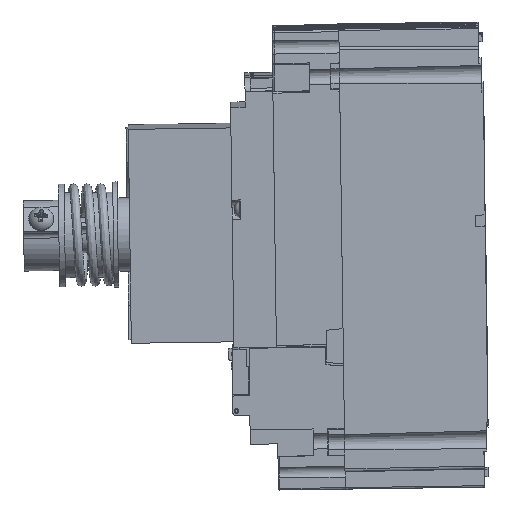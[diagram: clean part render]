
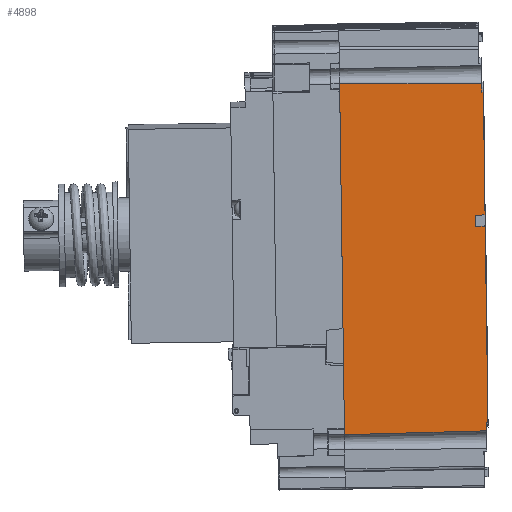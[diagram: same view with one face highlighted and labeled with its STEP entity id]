
A CAD part, left-side view. The second image highlights one B-rep face of the part: STEP entity #4898.
In plain terms, the highlighted planar face has unit normal (-1, -0.014, -0.017).
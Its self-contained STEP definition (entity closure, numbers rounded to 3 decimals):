
#4898=ADVANCED_FACE('',(#55713),#55715,.T.);
#55713=FACE_BOUND('',#55714,.T.);
#55714=EDGE_LOOP('',(#107358,#107359,#107360,#107361,#107362,#107363,#107364,#107365,
#107366,#107367,#107368,#107369,#107370,#107371));
#55715=PLANE('',#55716);
#55716=AXIS2_PLACEMENT_3D('',#55717,#55718,#55719);
#55717=CARTESIAN_POINT('',(-52.281,-0.296,-59.906));
#55718=DIRECTION('',(-1.,-0.014,-0.017));
#55719=DIRECTION('',(-0.017,0.014,1.));
#107358=ORIENTED_EDGE('',*,*,#137240,.F.);
#107359=ORIENTED_EDGE('',*,*,#137241,.F.);
#107360=ORIENTED_EDGE('',*,*,#137242,.T.);
#107361=ORIENTED_EDGE('',*,*,#137243,.T.);
#107362=ORIENTED_EDGE('',*,*,#137244,.T.);
#107363=ORIENTED_EDGE('',*,*,#137245,.F.);
#107364=ORIENTED_EDGE('',*,*,#137246,.F.);
#107365=ORIENTED_EDGE('',*,*,#137247,.T.);
#107366=ORIENTED_EDGE('',*,*,#137248,.T.);
#107367=ORIENTED_EDGE('',*,*,#137249,.F.);
#107368=ORIENTED_EDGE('',*,*,#137250,.T.);
#107369=ORIENTED_EDGE('',*,*,#136683,.T.);
#107370=ORIENTED_EDGE('',*,*,#136682,.F.);
#107371=ORIENTED_EDGE('',*,*,#135725,.T.);
#135725=EDGE_CURVE('',#151539,#151916,#151918,.T.);
#136682=EDGE_CURVE('',#151539,#150908,#153520,.T.);
#136683=EDGE_CURVE('',#153521,#150908,#153522,.T.);
#137240=EDGE_CURVE('',#154479,#151916,#154480,.T.);
#137241=EDGE_CURVE('',#154481,#154479,#154482,.T.);
#137242=EDGE_CURVE('',#154481,#154483,#154484,.T.);
#137243=EDGE_CURVE('',#154483,#154485,#154486,.T.);
#137244=EDGE_CURVE('',#154485,#154487,#154488,.T.);
#137245=EDGE_CURVE('',#154489,#154487,#154490,.T.);
#137246=EDGE_CURVE('',#154491,#154489,#154492,.T.);
#137247=EDGE_CURVE('',#154491,#154493,#154494,.T.);
#137248=EDGE_CURVE('',#154493,#154495,#154496,.T.);
#137249=EDGE_CURVE('',#154497,#154495,#154498,.T.);
#137250=EDGE_CURVE('',#154497,#153521,#154499,.T.);
#150908=VERTEX_POINT('',#177034);
#151539=VERTEX_POINT('',#179385);
#151916=VERTEX_POINT('',#180350);
#151918=LINE('',#180354,#180355);
#153520=LINE('',#185942,#185943);
#153521=VERTEX_POINT('',#185945);
#153522=B_SPLINE_CURVE_WITH_KNOTS('',3,
(#185946,#185947,#185948,#185949,#185950,#185951,#185952,#185953),
.UNSPECIFIED.,.F.,.F.,
(4,1,1,1,1,4),
(0.,0.241,0.483,0.737,0.832,1.),
.UNSPECIFIED.);
#154479=VERTEX_POINT('',#191422);
#154480=B_SPLINE_CURVE_WITH_KNOTS('',3,
(#191423,#191424,#191425,#191426,#191427,#191428),
.UNSPECIFIED.,.F.,.F.,
(4,2,4),
(0.,0.5,1.),
.UNSPECIFIED.);
#154481=VERTEX_POINT('',#191429);
#154482=B_SPLINE_CURVE_WITH_KNOTS('',3,
(#191430,#191431,#191432,#191433,#191434,#191435,#191436),
.UNSPECIFIED.,.F.,.F.,
(4,1,1,1,4),
(0.,0.241,0.483,0.737,1.),
.UNSPECIFIED.);
#154483=VERTEX_POINT('',#191437);
#154484=LINE('',#191438,#191439);
#154485=VERTEX_POINT('',#191441);
#154486=LINE('',#191442,#191443);
#154487=VERTEX_POINT('',#191445);
#154488=LINE('',#191446,#191447);
#154489=VERTEX_POINT('',#191449);
#154490=LINE('',#191450,#191451);
#154491=VERTEX_POINT('',#191453);
#154492=LINE('',#191454,#191455);
#154493=VERTEX_POINT('',#191457);
#154494=LINE('',#191458,#191459);
#154495=VERTEX_POINT('',#191461);
#154496=LINE('',#191462,#191463);
#154497=VERTEX_POINT('',#191465);
#154498=LINE('',#191466,#191467);
#154499=LINE('',#191469,#191470);
#177034=CARTESIAN_POINT('',(-54.372,1.378,59.866));
#179385=CARTESIAN_POINT('',(-54.34,1.352,58.065));
#180350=CARTESIAN_POINT('',(-52.312,-0.27,-58.106));
#180354=CARTESIAN_POINT('',(-54.34,1.352,58.065));
#180355=VECTOR('',#180356,1.);
#180356=DIRECTION('',(0.017,-0.014,-1.));
#185942=CARTESIAN_POINT('',(-54.34,1.352,58.065));
#185943=VECTOR('',#185944,1.);
#185944=DIRECTION('',(-0.017,0.014,1.));
#185945=CARTESIAN_POINT('',(-53.688,-47.027,59.915));
#185946=CARTESIAN_POINT('',(-53.688,-47.027,59.915));
#185947=CARTESIAN_POINT('',(-53.744,-43.015,59.905));
#185948=CARTESIAN_POINT('',(-53.857,-35.021,59.889));
#185949=CARTESIAN_POINT('',(-54.027,-23.026,59.872));
#185950=CARTESIAN_POINT('',(-54.16,-13.557,59.865));
#185951=CARTESIAN_POINT('',(-54.276,-5.377,59.863));
#185952=CARTESIAN_POINT('',(-54.335,-1.245,59.865));
#185953=CARTESIAN_POINT('',(-54.372,1.378,59.866));
#191422=CARTESIAN_POINT('',(-52.281,-0.295,-59.908));
#191423=CARTESIAN_POINT('',(-52.281,-0.295,-59.908));
#191424=CARTESIAN_POINT('',(-52.286,-0.291,-59.607));
#191425=CARTESIAN_POINT('',(-52.292,-0.287,-59.307));
#191426=CARTESIAN_POINT('',(-52.302,-0.278,-58.707));
#191427=CARTESIAN_POINT('',(-52.307,-0.274,-58.406));
#191428=CARTESIAN_POINT('',(-52.312,-0.27,-58.106));
#191429=CARTESIAN_POINT('',(-51.619,-48.681,-58.581));
#191430=CARTESIAN_POINT('',(-51.619,-48.681,-58.581));
#191431=CARTESIAN_POINT('',(-51.674,-44.671,-58.686));
#191432=CARTESIAN_POINT('',(-51.783,-36.68,-58.896));
#191433=CARTESIAN_POINT('',(-51.948,-24.689,-59.22));
#191434=CARTESIAN_POINT('',(-52.114,-12.53,-59.556));
#191435=CARTESIAN_POINT('',(-52.225,-4.401,-59.788));
#191436=CARTESIAN_POINT('',(-52.281,-0.295,-59.908));
#191437=CARTESIAN_POINT('',(-51.671,-48.64,-55.619));
#191438=CARTESIAN_POINT('',(-51.619,-48.681,-58.581));
#191439=VECTOR('',#191440,1.);
#191440=DIRECTION('',(-0.017,0.014,1.));
#191441=CARTESIAN_POINT('',(-51.662,-49.24,-55.611));
#191442=CARTESIAN_POINT('',(-51.671,-48.64,-55.619));
#191443=VECTOR('',#191444,1.);
#191444=DIRECTION('',(0.014,-1.,0.014));
#191445=CARTESIAN_POINT('',(-52.83,-48.306,11.273));
#191446=CARTESIAN_POINT('',(-51.662,-49.24,-55.611));
#191447=VECTOR('',#191448,1.);
#191448=DIRECTION('',(-0.017,0.014,1.));
#191449=CARTESIAN_POINT('',(-52.875,-45.056,11.227));
#191450=CARTESIAN_POINT('',(-52.875,-45.056,11.227));
#191451=VECTOR('',#191452,1.);
#191452=DIRECTION('',(0.014,-1.,0.014));
#191453=CARTESIAN_POINT('',(-52.941,-45.003,15.026));
#191454=CARTESIAN_POINT('',(-52.941,-45.003,15.026));
#191455=VECTOR('',#191456,1.);
#191456=DIRECTION('',(0.017,-0.014,-1.));
#191457=CARTESIAN_POINT('',(-52.896,-48.253,15.072));
#191458=CARTESIAN_POINT('',(-52.941,-45.003,15.026));
#191459=VECTOR('',#191460,1.);
#191460=DIRECTION('',(0.014,-1.,0.014));
#191461=CARTESIAN_POINT('',(-53.627,-47.668,56.961));
#191462=CARTESIAN_POINT('',(-52.896,-48.253,15.072));
#191463=VECTOR('',#191464,1.);
#191464=DIRECTION('',(-0.017,0.014,1.));
#191465=CARTESIAN_POINT('',(-53.636,-47.068,56.953));
#191466=CARTESIAN_POINT('',(-53.636,-47.068,56.953));
#191467=VECTOR('',#191468,1.);
#191468=DIRECTION('',(0.014,-1.,0.014));
#191469=CARTESIAN_POINT('',(-53.636,-47.068,56.953));
#191470=VECTOR('',#191471,1.);
#191471=DIRECTION('',(-0.017,0.014,1.));
